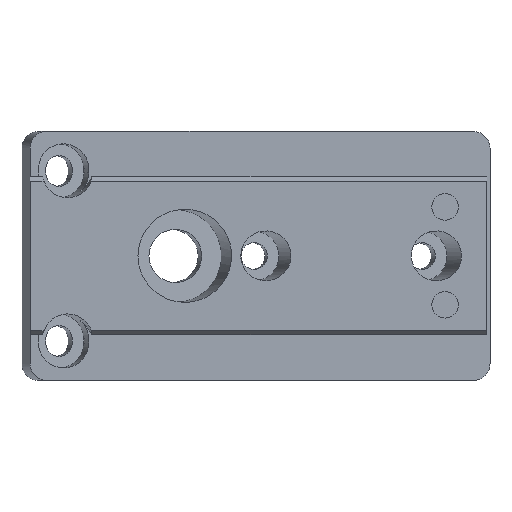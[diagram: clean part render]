
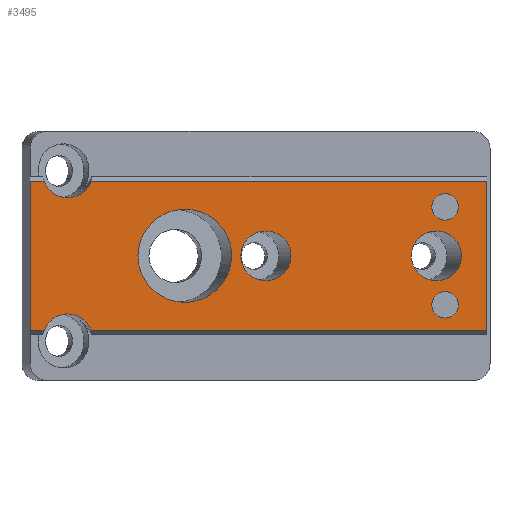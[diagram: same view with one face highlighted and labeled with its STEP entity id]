
A CAD part, top view. The second image highlights one B-rep face of the part: STEP entity #3495.
In plain terms, the highlighted planar face has unit normal (0, 0, 1).
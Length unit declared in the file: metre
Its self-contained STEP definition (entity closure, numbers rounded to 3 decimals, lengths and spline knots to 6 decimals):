
#96=ELLIPSE('',#3725,0.005642,0.0056);
#97=ELLIPSE('',#3726,0.003023,0.003);
#98=ELLIPSE('',#3727,0.003023,0.003);
#99=ELLIPSE('',#3730,0.003023,0.003);
#100=ELLIPSE('',#3731,0.003023,0.003);
#174=CIRCLE('',#3728,0.0016);
#175=CIRCLE('',#3729,0.0016);
#257=ORIENTED_EDGE('',*,*,#1299,.T.);
#258=ORIENTED_EDGE('',*,*,#1300,.T.);
#259=ORIENTED_EDGE('',*,*,#1301,.T.);
#260=ORIENTED_EDGE('',*,*,#1302,.T.);
#261=ORIENTED_EDGE('',*,*,#1303,.T.);
#262=ORIENTED_EDGE('',*,*,#1304,.F.);
#263=ORIENTED_EDGE('',*,*,#1305,.T.);
#264=ORIENTED_EDGE('',*,*,#1306,.F.);
#265=ORIENTED_EDGE('',*,*,#1307,.T.);
#266=ORIENTED_EDGE('',*,*,#1308,.F.);
#267=ORIENTED_EDGE('',*,*,#1309,.T.);
#268=ORIENTED_EDGE('',*,*,#1310,.T.);
#269=ORIENTED_EDGE('',*,*,#1311,.T.);
#1299=EDGE_CURVE('',#1820,#1820,#96,.T.);
#1300=EDGE_CURVE('',#1821,#1821,#97,.T.);
#1301=EDGE_CURVE('',#1822,#1822,#98,.T.);
#1302=EDGE_CURVE('',#1823,#1823,#174,.T.);
#1303=EDGE_CURVE('',#1824,#1824,#175,.T.);
#1304=EDGE_CURVE('',#1825,#1826,#99,.F.);
#1305=EDGE_CURVE('',#1825,#1827,#2153,.T.);
#1306=EDGE_CURVE('',#1828,#1827,#2154,.T.);
#1307=EDGE_CURVE('',#1828,#1829,#2155,.T.);
#1308=EDGE_CURVE('',#1830,#1829,#100,.F.);
#1309=EDGE_CURVE('',#1830,#1831,#2156,.T.);
#1310=EDGE_CURVE('',#1831,#1832,#2157,.T.);
#1311=EDGE_CURVE('',#1832,#1826,#2158,.T.);
#1820=VERTEX_POINT('',#4932);
#1821=VERTEX_POINT('',#4934);
#1822=VERTEX_POINT('',#4936);
#1823=VERTEX_POINT('',#4938);
#1824=VERTEX_POINT('',#4940);
#1825=VERTEX_POINT('',#4942);
#1826=VERTEX_POINT('',#4943);
#1827=VERTEX_POINT('',#4945);
#1828=VERTEX_POINT('',#4947);
#1829=VERTEX_POINT('',#4949);
#1830=VERTEX_POINT('',#4951);
#1831=VERTEX_POINT('',#4953);
#1832=VERTEX_POINT('',#4955);
#2153=LINE('',#4944,#2534);
#2154=LINE('',#4946,#2535);
#2155=LINE('',#4948,#2536);
#2156=LINE('',#4952,#2537);
#2157=LINE('',#4954,#2538);
#2158=LINE('',#4956,#2539);
#2534=VECTOR('',#4037,1.);
#2535=VECTOR('',#4038,1.);
#2536=VECTOR('',#4039,1.);
#2537=VECTOR('',#4042,1.);
#2538=VECTOR('',#4043,1.);
#2539=VECTOR('',#4044,1.);
#2902=EDGE_LOOP('',(#257));
#2903=EDGE_LOOP('',(#258));
#2904=EDGE_LOOP('',(#259));
#2905=EDGE_LOOP('',(#260));
#2906=EDGE_LOOP('',(#261));
#2907=EDGE_LOOP('',(#262,#263,#264,#265,#266,#267,#268,#269));
#3135=FACE_BOUND('',#2902,.T.);
#3136=FACE_BOUND('',#2903,.T.);
#3137=FACE_BOUND('',#2904,.T.);
#3138=FACE_BOUND('',#2905,.T.);
#3139=FACE_BOUND('',#2906,.T.);
#3140=FACE_BOUND('',#2907,.T.);
#3360=PLANE('',#3724);
#3495=ADVANCED_FACE('',(#3135,#3136,#3137,#3138,#3139,#3140),#3360,.F.);
#3724=AXIS2_PLACEMENT_3D('',#4930,#4023,#4024);
#3725=AXIS2_PLACEMENT_3D('',#4931,#4025,#4026);
#3726=AXIS2_PLACEMENT_3D('',#4933,#4027,#4028);
#3727=AXIS2_PLACEMENT_3D('',#4935,#4029,#4030);
#3728=AXIS2_PLACEMENT_3D('',#4937,#4031,#4032);
#3729=AXIS2_PLACEMENT_3D('',#4939,#4033,#4034);
#3730=AXIS2_PLACEMENT_3D('',#4941,#4035,#4036);
#3731=AXIS2_PLACEMENT_3D('',#4950,#4040,#4041);
#4023=DIRECTION('',(0.,0.,-1.));
#4024=DIRECTION('',(-1.,0.,0.));
#4025=DIRECTION('',(0.,0.,-1.));
#4026=DIRECTION('',(-1.,0.,0.));
#4027=DIRECTION('',(0.,0.,-1.));
#4028=DIRECTION('',(-1.,0.,0.));
#4029=DIRECTION('',(0.,0.,-1.));
#4030=DIRECTION('',(-1.,0.,0.));
#4031=DIRECTION('',(0.,0.,-1.));
#4032=DIRECTION('',(-1.,0.,0.));
#4033=DIRECTION('',(0.,0.,-1.));
#4034=DIRECTION('',(-1.,0.,0.));
#4035=DIRECTION('',(0.,0.,-1.));
#4036=DIRECTION('',(-1.,0.,0.));
#4037=DIRECTION('',(1.,0.,0.));
#4038=DIRECTION('',(0.,-1.,0.));
#4039=DIRECTION('',(-1.,0.,0.));
#4040=DIRECTION('',(0.,0.,-1.));
#4041=DIRECTION('',(-1.,0.,0.));
#4042=DIRECTION('',(-1.,0.,0.));
#4043=DIRECTION('',(0.,-1.,0.));
#4044=DIRECTION('',(1.,0.,0.));
#4930=CARTESIAN_POINT('',(0.055,0.,0.0041));
#4931=CARTESIAN_POINT('',(0.018639,0.,0.0041));
#4932=CARTESIAN_POINT('',(0.012997,0.,0.0041));
#4933=CARTESIAN_POINT('',(0.048965,0.,0.0041));
#4934=CARTESIAN_POINT('',(0.045942,0.,0.0041));
#4935=CARTESIAN_POINT('',(0.028411,0.,0.0041));
#4936=CARTESIAN_POINT('',(0.025389,0.,0.0041));
#4937=CARTESIAN_POINT('',(0.05,0.0059,0.0041));
#4938=CARTESIAN_POINT('',(0.0484,0.0059,0.0041));
#4939=CARTESIAN_POINT('',(0.05,-0.0059,0.0041));
#4940=CARTESIAN_POINT('',(0.0484,-0.0059,0.0041));
#4941=CARTESIAN_POINT('',(0.004533,-0.01,0.0041));
#4942=CARTESIAN_POINT('',(0.007385,-0.009004,0.0041));
#4943=CARTESIAN_POINT('',(0.001682,-0.009004,0.0041));
#4944=CARTESIAN_POINT('',(0.055,-0.009004,0.0041));
#4945=CARTESIAN_POINT('',(0.055,-0.009004,0.0041));
#4946=CARTESIAN_POINT('',(0.055,0.,0.0041));
#4947=CARTESIAN_POINT('',(0.055,0.009004,0.0041));
#4948=CARTESIAN_POINT('',(0.,0.009004,0.0041));
#4949=CARTESIAN_POINT('',(0.007385,0.009004,0.0041));
#4950=CARTESIAN_POINT('',(0.004533,0.01,0.0041));
#4951=CARTESIAN_POINT('',(0.001682,0.009004,0.0041));
#4952=CARTESIAN_POINT('',(0.,0.009004,0.0041));
#4953=CARTESIAN_POINT('',(0.,0.009004,0.0041));
#4954=CARTESIAN_POINT('',(0.,0.,0.0041));
#4955=CARTESIAN_POINT('',(0.,-0.009004,0.0041));
#4956=CARTESIAN_POINT('',(0.055,-0.009004,0.0041));
